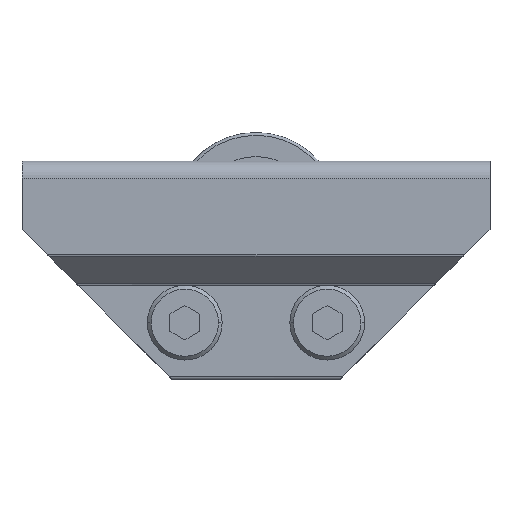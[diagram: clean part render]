
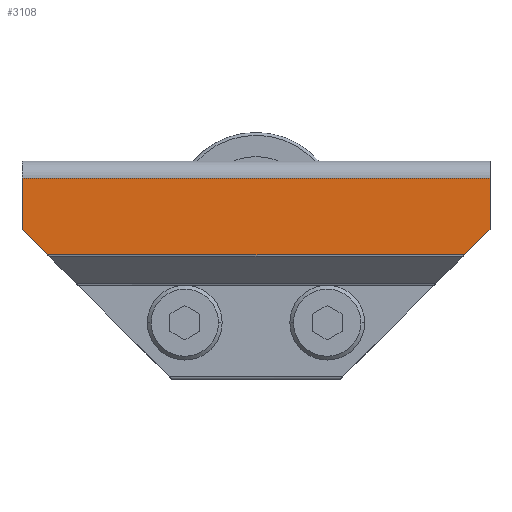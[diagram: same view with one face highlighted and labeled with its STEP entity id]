
A CAD part, top view. The second image highlights one B-rep face of the part: STEP entity #3108.
In plain terms, the highlighted planar face has unit normal (0, 0, 1) as drawn and (1, 0, 0) by its records, which use the part's own axes.
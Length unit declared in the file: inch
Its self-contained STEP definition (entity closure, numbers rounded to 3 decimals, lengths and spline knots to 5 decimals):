
#2599=DIRECTION('',(0.,-1.,0.));
#2600=VECTOR('',#2599,0.269);
#2601=CARTESIAN_POINT('',(0.375,0.763,-1.2325));
#2602=LINE('',#2601,#2600);
#2643=DIRECTION('',(0.,-0.707,-0.707));
#2644=VECTOR('',#2643,0.19062);
#2645=CARTESIAN_POINT('',(0.375,0.494,1.2325));
#2646=LINE('',#2645,#2644);
#2647=DIRECTION('',(0.,-1.,0.));
#2648=VECTOR('',#2647,0.269);
#2649=CARTESIAN_POINT('',(0.375,0.763,1.2325));
#2650=LINE('',#2649,#2648);
#2651=DIRECTION('',(0.,0.707,-0.707));
#2652=VECTOR('',#2651,0.19062);
#2653=CARTESIAN_POINT('',(0.375,0.35921,-1.09771));
#2654=LINE('',#2653,#2652);
#2659=DIRECTION('',(0.,0.,1.));
#2660=VECTOR('',#2659,2.19543);
#2661=CARTESIAN_POINT('',(0.375,0.35921,-1.09771));
#2662=LINE('',#2661,#2660);
#2858=DIRECTION('',(0.,0.,-1.));
#2859=VECTOR('',#2858,2.465);
#2860=CARTESIAN_POINT('',(0.375,0.763,1.2325));
#2861=LINE('',#2860,#2859);
#2904=CARTESIAN_POINT('',(0.375,0.35921,-1.09771));
#2951=CARTESIAN_POINT('',(0.375,0.494,1.2325));
#2953=VERTEX_POINT('',#2951);
#2961=CARTESIAN_POINT('',(0.375,0.763,1.2325));
#2962=CARTESIAN_POINT('',(0.375,0.763,-1.2325));
#2963=VERTEX_POINT('',#2961);
#2964=VERTEX_POINT('',#2962);
#2971=CARTESIAN_POINT('',(0.375,0.494,-1.2325));
#2972=VERTEX_POINT('',#2971);
#2977=CARTESIAN_POINT('',(0.375,0.35921,1.09771));
#2978=VERTEX_POINT('',#2977);
#3013=VERTEX_POINT('',#2904);
#3090=CARTESIAN_POINT('',(0.375,0.763,1.2325));
#3091=DIRECTION('',(-1.,0.,0.));
#3092=DIRECTION('',(0.,-1.,0.));
#3093=AXIS2_PLACEMENT_3D('',#3090,#3091,#3092);
#3094=PLANE('',#3093);
#3096=ORIENTED_EDGE('',*,*,#3095,.T.);
#3098=ORIENTED_EDGE('',*,*,#3097,.F.);
#3100=ORIENTED_EDGE('',*,*,#3099,.F.);
#3102=ORIENTED_EDGE('',*,*,#3101,.T.);
#3103=ORIENTED_EDGE('',*,*,#3064,.T.);
#3105=ORIENTED_EDGE('',*,*,#3104,.F.);
#3106=EDGE_LOOP('',(#3096,#3098,#3100,#3102,#3103,#3105));
#3107=FACE_OUTER_BOUND('',#3106,.F.);
#3064=EDGE_CURVE('',#2964,#2972,#2602,.T.);
#3095=EDGE_CURVE('',#3013,#2978,#2662,.T.);
#3097=EDGE_CURVE('',#2953,#2978,#2646,.T.);
#3099=EDGE_CURVE('',#2963,#2953,#2650,.T.);
#3101=EDGE_CURVE('',#2963,#2964,#2861,.T.);
#3104=EDGE_CURVE('',#3013,#2972,#2654,.T.);
#3108=ADVANCED_FACE('',(#3107),#3094,.F.);
